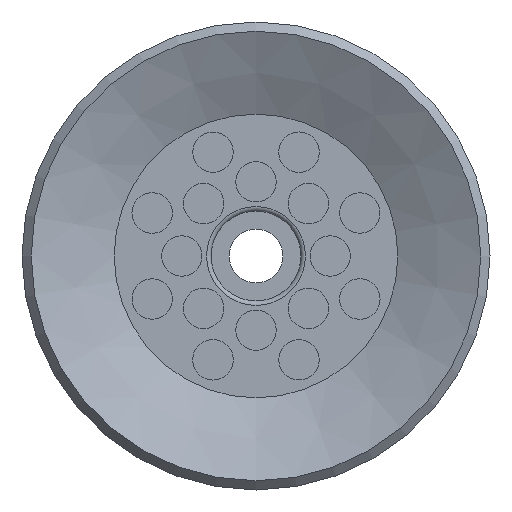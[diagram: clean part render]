
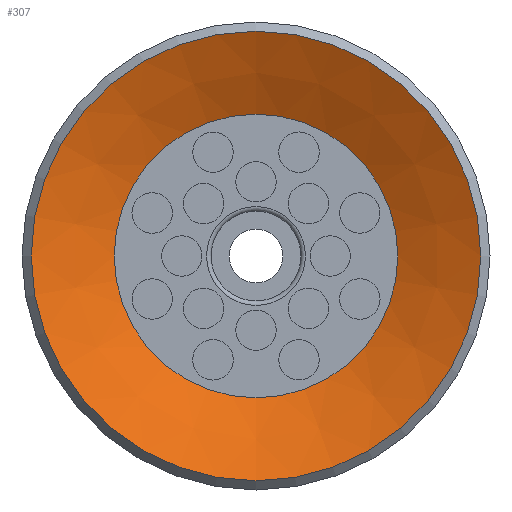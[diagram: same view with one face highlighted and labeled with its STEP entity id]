
A CAD part, front view. The second image highlights one B-rep face of the part: STEP entity #307.
In plain terms, the highlighted conical face has half-angle 64 degrees and reference radius 5 mm.
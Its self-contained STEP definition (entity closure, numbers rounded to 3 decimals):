
#307=ADVANCED_FACE('',(#476,#477),#478,.F.);
#476=FACE_BOUND('',#726,.T.);
#477=FACE_OUTER_BOUND('',#727,.T.);
#478=CONICAL_SURFACE('',#728,5.0,1.117);
#726=EDGE_LOOP('',(#1097));
#727=EDGE_LOOP('',(#1098));
#728=AXIS2_PLACEMENT_3D('',#1099,#1100,#1101);
#1097=ORIENTED_EDGE('',*,*,#1397,.T.);
#1098=ORIENTED_EDGE('',*,*,#1398,.F.);
#1099=CARTESIAN_POINT('',(0.0,0.,0.));
#1100=DIRECTION('',(0.0,0.,-1.0));
#1101=DIRECTION('',(0.0,1.0,0.));
#1397=EDGE_CURVE('',#1560,#1560,#1561,.T.);
#1398=EDGE_CURVE('',#1562,#1562,#1563,.T.);
#1560=VERTEX_POINT('',#1792);
#1561=CIRCLE('',#1793,3.155);
#1562=VERTEX_POINT('',#1794);
#1563=CIRCLE('',#1795,5.0);
#1792=CARTESIAN_POINT('',(0.0,-3.155,0.9));
#1793=AXIS2_PLACEMENT_3D('',#2011,#2012,#2013);
#1794=CARTESIAN_POINT('',(0.0,-5.0,0.));
#1795=AXIS2_PLACEMENT_3D('',#2014,#2015,#2016);
#2011=CARTESIAN_POINT('',(0.0,0.,0.9));
#2012=DIRECTION('',(0.0,0.,1.0));
#2013=DIRECTION('',(0.0,-1.0,0.));
#2014=CARTESIAN_POINT('',(0.0,0.,0.));
#2015=DIRECTION('',(0.0,0.,1.0));
#2016=DIRECTION('',(0.0,-1.0,0.));
